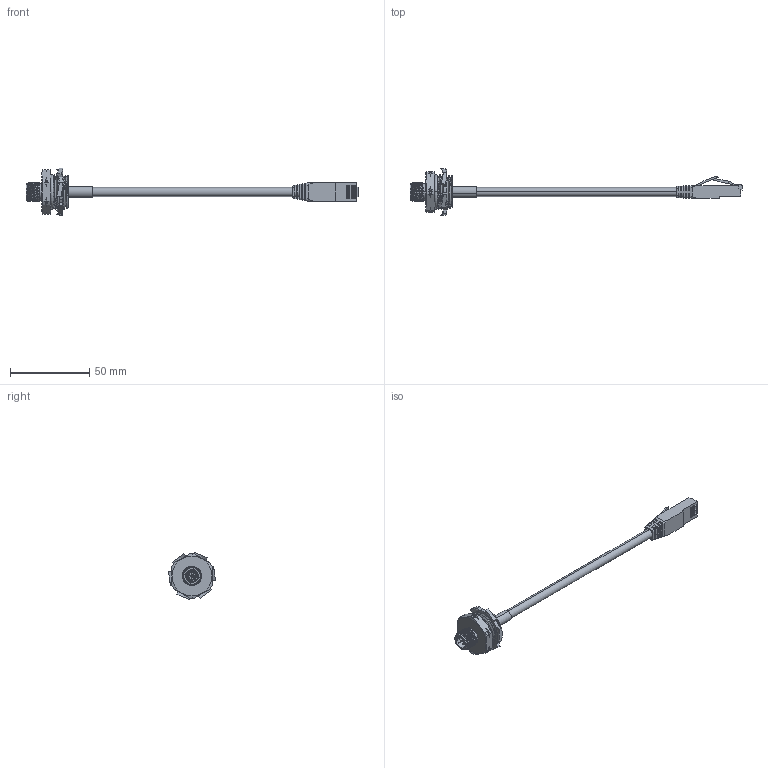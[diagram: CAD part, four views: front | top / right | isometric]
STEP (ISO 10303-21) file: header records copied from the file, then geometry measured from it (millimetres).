
FILE_DESCRIPTION (( 'STEP AP214' ), '1' );
FILE_NAME ('MDE45-8MR-RJ45-2-ZZ.STEP', '2013-06-28T17:16:35', ( 'Mencom User' ), ( 'Hewlett-Packard Company' ), 'SwSTEP 2.0', 'SolidWorks 2013', '' );
FILE_SCHEMA (( 'AUTOMOTIVE_DESIGN' ));
Length unit declared in the file: inch
Products named in the file (1): MDE45-8MR-RJ45-2-ZZ
Bounding box: 209.19 x 29.48 x 29.77 mm (x, y, z)
Volume: 14790.7 mm3; surface area: 10877.7 mm2
Topology: 1 solids, 3 shells, 556 faces, 1498 edges, 977 vertices
Faces by surface type: plane 269, cylinder 132, bspline 78, torus 40, cone 37
Entity records: 32196 total; most frequent: CARTESIAN_POINT 11777, ORIENTED_EDGE 2996, DIRECTION 2407, EDGE_CURVE 1498, VERTEX_POINT 977, LINE 805, VECTOR 805, AXIS2_PLACEMENT_3D 801
